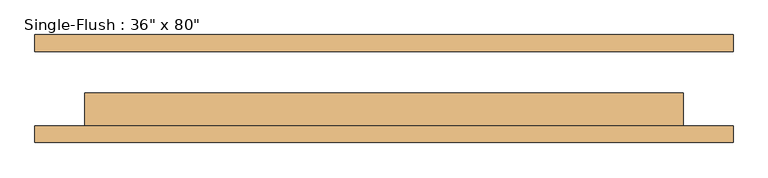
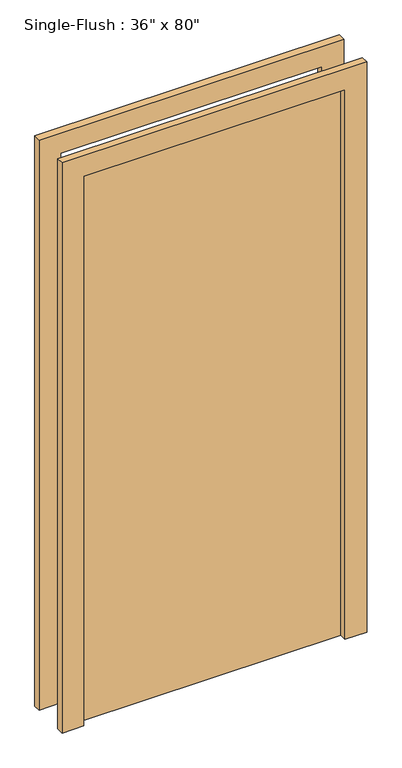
"""IFC4 building model written with IfcOpenShell, lengths in millimetres: door geometry."""

from ifc_helpers import new_model, si_unit, frame, origin, origin_with_axes, place, context, project, spatial, polyline, outline, extrude, source, transform, mapped, element, save


def door_5e62189b(model_context):
    return source(origin(), model_context, "Body", "SweptSolid", [
        extrude(outline(polyline([(2108.2, -533.4), (0.0, -533.4), (0.0, -457.2), (2032.0, -457.2), (2032.0, 457.2), (0.0, 457.2), (0.0, 533.4), (2108.2, 533.4), (2108.2, -533.4)])), frame((0.0, -82.55, 0.0), z_axis=(0.0, 1.0, 0.0), x_axis=(0.0, 0.0, 1.0)), (0.0, 0.0, 1.0), 25.4),
        extrude(outline(polyline([(2108.2, 533.4), (2108.2, -533.4), (0.0, -533.4), (0.0, -457.2), (2032.0, -457.2), (2032.0, 457.2), (0.0, 457.2), (0.0, 533.4), (2108.2, 533.4)])), frame((0.0, 57.15, 0.0), z_axis=(0.0, 1.0, 0.0), x_axis=(0.0, 0.0, 1.0)), (0.0, 0.0, 1.0), 25.4),
        extrude(outline(polyline([(457.2, -6.35), (457.2, -57.15), (-457.2, -57.15), (-457.2, -6.35), (457.2, -6.35)])), origin_with_axes(), (0.0, 0.0, 1.0), 2032.0),
    ])


if __name__ == "__main__":
    model = new_model("IFC4")
    model_context = context("Model", 3, world=origin())
    ifc_project = project(units=[si_unit("LENGTHUNIT", "METRE", prefix="MILLI")], contexts=[model_context])
    site = spatial("IfcSite", under=ifc_project)
    building = spatial("IfcBuilding", under=site)
    placement = place(None, origin())
    door_shape = door_5e62189b(model_context)
    element("IfcDoor", 1, ObjectType="Single-Flush : 36\" x 80\"", at=placement, inside=building, context=model_context, shape_type="MappedRepresentation", body=[
        mapped(door_shape, transform((0.0, 0.0, 0.0), x_axis=(1.0, 0.0, 0.0), y_axis=(0.0, 1.0, 0.0), z_axis=(0.0, 0.0, 1.0))),
    ])
    save(model, "model.ifc")
